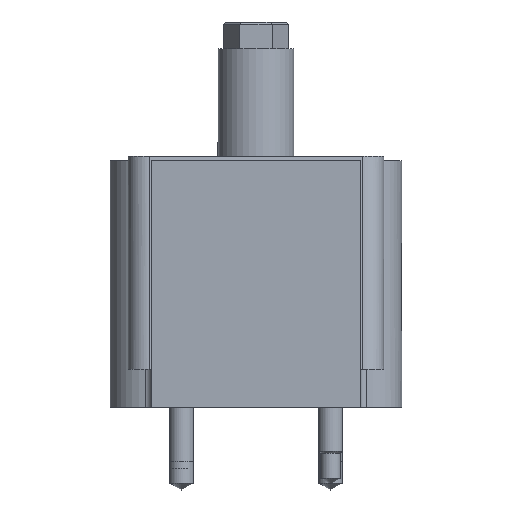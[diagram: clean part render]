
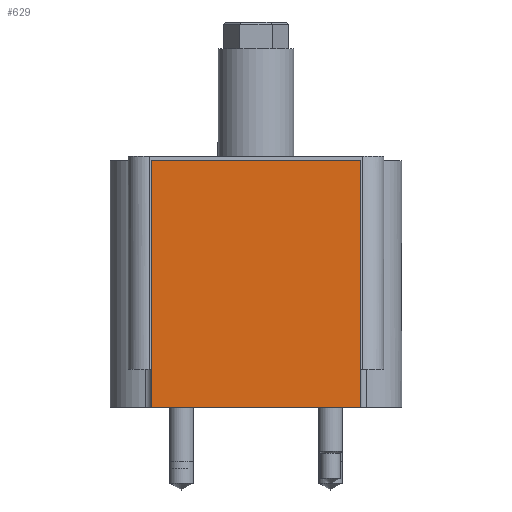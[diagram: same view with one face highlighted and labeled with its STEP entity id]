
A CAD part, left-side view. The second image highlights one B-rep face of the part: STEP entity #629.
In plain terms, the highlighted planar face has unit normal (-1, 0, 0).
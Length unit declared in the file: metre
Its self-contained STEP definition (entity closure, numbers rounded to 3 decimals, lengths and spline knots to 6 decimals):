
#629=ADVANCED_FACE('',(#1533),#1534,.T.);
#1533=FACE_OUTER_BOUND('',#2960,.T.);
#1534=PLANE('',#2961);
#2960=EDGE_LOOP('',(#13191,#13192,#13193,#13194));
#2961=AXIS2_PLACEMENT_3D('',#13195,#13196,#13197);
#13191=ORIENTED_EDGE('',*,*,#15609,.F.);
#13192=ORIENTED_EDGE('',*,*,#15592,.T.);
#13193=ORIENTED_EDGE('',*,*,#15588,.F.);
#13194=ORIENTED_EDGE('',*,*,#15571,.T.);
#13195=CARTESIAN_POINT('',(-0.084201,0.0,0.0));
#13196=DIRECTION('',(-1.0,0.0,0.0));
#13197=DIRECTION('',(0.0,0.0,1.0));
#15571=EDGE_CURVE('',#16401,#16399,#16402,.T.);
#15588=EDGE_CURVE('',#16401,#16427,#16428,.F.);
#15592=EDGE_CURVE('',#16433,#16427,#16434,.T.);
#15609=EDGE_CURVE('',#16433,#16399,#16458,.F.);
#16399=VERTEX_POINT('',#17578);
#16401=VERTEX_POINT('',#17581);
#16402=LINE('',#17582,#17583);
#16427=VERTEX_POINT('',#17615);
#16428=LINE('',#17616,#17617);
#16433=VERTEX_POINT('',#17624);
#16434=LINE('',#17625,#17626);
#16458=LINE('',#17656,#17657);
#17578=CARTESIAN_POINT('',(-0.084201,0.034988,0.08255));
#17581=CARTESIAN_POINT('',(-0.084201,-0.034988,0.08255));
#17582=CARTESIAN_POINT('',(-0.084201,0.0,0.08255));
#17583=VECTOR('',#21257,1.0);
#17615=CARTESIAN_POINT('',(-0.084201,-0.034988,0.0));
#17616=CARTESIAN_POINT('',(-0.084201,-0.034988,0.0));
#17617=VECTOR('',#21280,1.0);
#17624=CARTESIAN_POINT('',(-0.084201,0.034988,0.0));
#17625=CARTESIAN_POINT('',(-0.084201,0.0,0.0));
#17626=VECTOR('',#21283,1.0);
#17656=CARTESIAN_POINT('',(-0.084201,0.034988,0.0));
#17657=VECTOR('',#21308,1.0);
#21257=DIRECTION('',(0.0,1.0,0.0));
#21280=DIRECTION('',(0.0,0.0,1.0));
#21283=DIRECTION('',(-0.0,-1.0,-0.0));
#21308=DIRECTION('',(0.0,0.0,-1.0));
